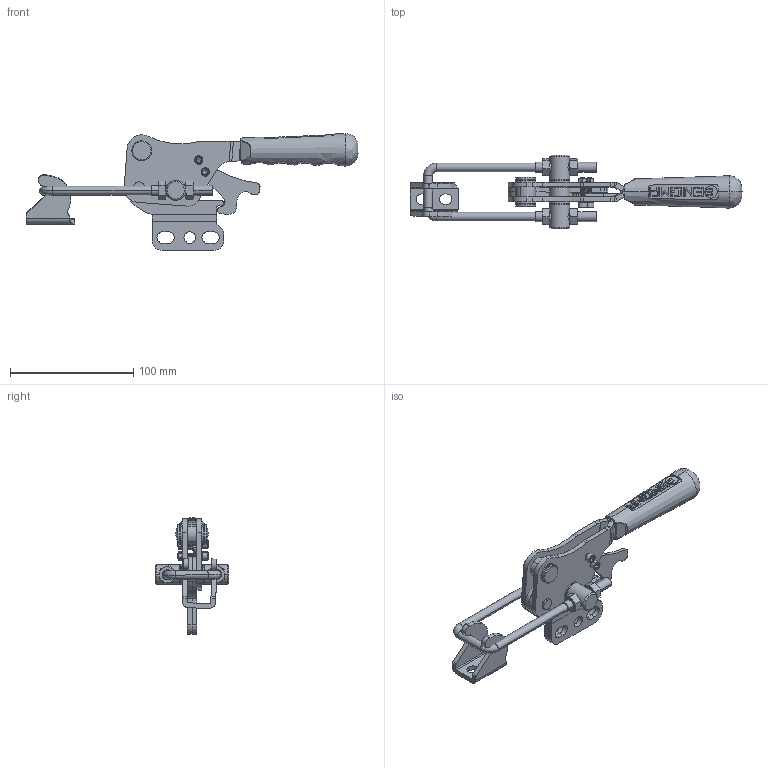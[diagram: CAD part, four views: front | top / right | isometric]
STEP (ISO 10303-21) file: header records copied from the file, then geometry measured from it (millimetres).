
FILE_DESCRIPTION (( 'STEP AP203' ), '1' );
FILE_NAME ('13108_D_K.STEP', '2022-11-30T08:47:16', ( '' ), ( '' ), 'SwSTEP 2.0', 'SolidWorks 2023', '' );
FILE_SCHEMA (( 'CONFIG_CONTROL_DESIGN' ));
Length unit declared in the file: millimetre
Products named in the file (15): M8 Somun; _X2_00d8_X0_6x18_P(PER_X2_00c70130_X0_N)_Varsay_X2_0131_X0_lan; 13108_OTOMAT_2_Varsay_X2_0131_X0_lan; 13108_D_K; M8x50_U_KANCA_Varsayılan; Mirror2022_13108_13110_Y_G_X2_00d6_X0_VDE_1; 13108_K_X2_0130_X0_L_X2_0130_X0_T_MEKAN_X2_0130_X0_ZMASI; M4_S; Mirror13108_H.KOLU_2022_Varsay_X2_0131_X0_lan; M8_M10_KK; 13108_H.KOLU_2022_Varsay_X2_0131_X0_lan; 13108_OTOMAT_Varsay_X2_0131_X0_lan; C95_Yeni_Tutamak_Varsay_X2_0131_X0_lan; S_M4x20 Imbus Civata; 2022_13108_13110_Y_G_X2_00d6_X0_VDE_1
Assembly tree (19 placements, depth 2):
  13108_D_K
    2022_13108_13110_Y_G_X2_00d6_X0_VDE_1
    13108_K_X2_0130_X0_L_X2_0130_X0_T_MEKAN_X2_0130_X0_ZMASI
    13108_H.KOLU_2022_Varsay_X2_0131_X0_lan
    Mirror13108_H.KOLU_2022_Varsay_X2_0131_X0_lan
    Mirror2022_13108_13110_Y_G_X2_00d6_X0_VDE_1
    C95_Yeni_Tutamak_Varsay_X2_0131_X0_lan
    S_M4x20 Imbus Civata  x2
    _X2_00d8_X0_6x18_P(PER_X2_00c70130_X0_N)_Varsay_X2_0131_X0_lan
    M8 Somun  x4
    M4_S  x2
    13108_OTOMAT_Varsay_X2_0131_X0_lan
    M8_M10_KK
    13108_OTOMAT_2_Varsay_X2_0131_X0_lan
    M8x50_U_KANCA_Varsayılan
Bounding box: 269.44 x 60 x 94.86 mm (x, y, z)
Volume: 133337.3 mm3; surface area: 74079.3 mm2
Topology: 17 solids, 25 shells, 863 faces, 2227 edges, 1421 vertices
Faces by surface type: plane 348, cylinder 345, cone 86, bspline 80, torus 4
Entity records: 47679 total; most frequent: CARTESIAN_POINT 30057, ORIENTED_EDGE 3434, DIRECTION 3141, EDGE_CURVE 1721, AXIS2_PLACEMENT_3D 1111, VERTEX_POINT 1102, LINE 919, VECTOR 919
